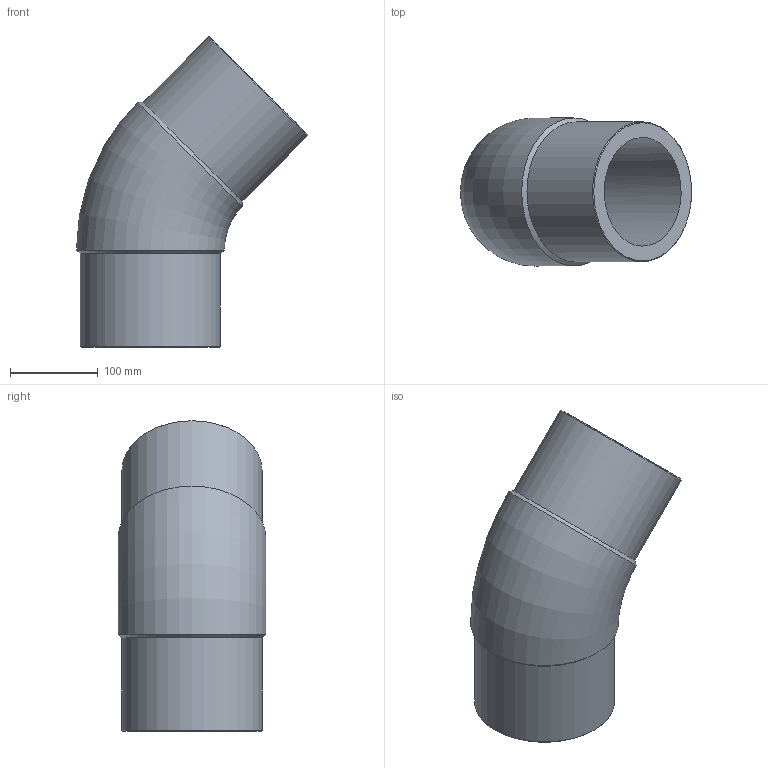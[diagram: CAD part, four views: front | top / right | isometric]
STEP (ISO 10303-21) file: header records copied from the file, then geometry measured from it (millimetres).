
FILE_DESCRIPTION(/* description */ ('Unknown'),/* implementation_level */ '2;1');
FILE_NAME(/* name */ 'G4P160G',/* time_stamp */ '2022-01-20T16:48:08+01:00',/* author */ ('Unknown'),/* organization */ ('Unknown'),/* preprocessor_version */ 'ST-DEVELOPER v18.1',/* originating_system */ 'Solid Edge',/* authorisation */ 'Unknown');
FILE_SCHEMA (('AUTOMOTIVE_DESIGN {1 0 10303 214 3 1 1}'));
Length unit declared in the file: millimetre
Products named in the file (1): G4P160G
Bounding box: 264.11 x 169 x 354.61 mm (x, y, z)
Volume: 3064967.5 mm3; surface area: 327518.7 mm2
Topology: 1 solids, 1 shells, 12 faces, 30 edges, 20 vertices
Faces by surface type: cone 4, cylinder 4, plane 2, torus 2
Full cylindrical faces by diameter (mm): 124.2 x2, 160 x2
Entity records: 328 total; most frequent: CARTESIAN_POINT 62, DIRECTION 52, ORIENTED_EDGE 34, AXIS2_PLACEMENT_3D 26, EDGE_LOOP 23, FACE_BOUND 23, EDGE_CURVE 17, VERTEX_POINT 16
